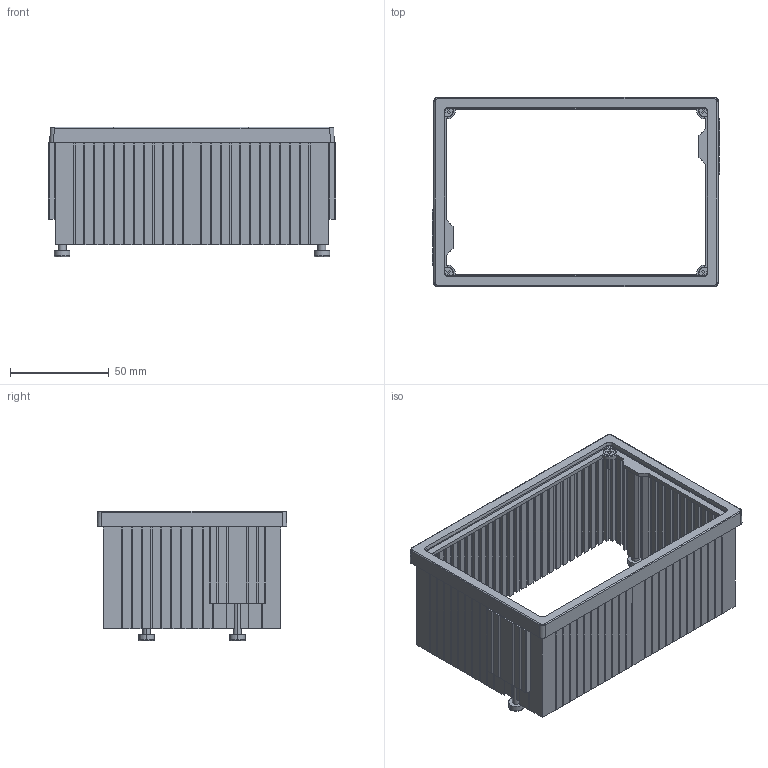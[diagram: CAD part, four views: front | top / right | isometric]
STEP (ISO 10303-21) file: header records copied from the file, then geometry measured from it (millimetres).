
FILE_DESCRIPTION(('Creo Elements/Direct Modeling STEP Export'),'2;1');
FILE_NAME('044232000.stp','2018-11-23T10:36:26',(''),(''),'Creo Elements/Direct Modeling STEP processor for AP214 (Solid Model)','Creo Elements/Direct Modeling 18.1I 13-Aug-2016 (C) Parametric Technology GmbH','');
FILE_SCHEMA(('AUTOMOTIVE_DESIGN { 1 0 10303 214 1 1 1 1 }'));
Length unit declared in the file: millimetre
Products named in the file (7): 0445336_Frontrahmen_144x96; 044200200_Befestigungsprofil; 024009601_Rahmen_144x96; 044232001_Profil_STG_144x96x60_5; 0630732_Senkschraube_M3X10; 0630730_SchraubeM4x16.01; 044232000_STG_144x96x60_5
Assembly tree (11 placements, depth 2):
  044232000_STG_144x96x60_5
    0630730_SchraubeM4x16.01  x2
    044200200_Befestigungsprofil  x2
    0630732_Senkschraube_M3X10  x4
    044232001_Profil_STG_144x96x60_5
    024009601_Rahmen_144x96
    0445336_Frontrahmen_144x96
Bounding box: 145.6 x 96 x 65.75 mm (x, y, z)
Volume: 90638.3 mm3; surface area: 94785.6 mm2
Topology: 11 solids, 11 shells, 869 faces, 2432 edges, 1604 vertices
Faces by surface type: plane 657, cylinder 168, cone 28, bspline 10, torus 4, extrusion 2
Entity records: 25045 total; most frequent: CARTESIAN_POINT 5144, ORIENTED_EDGE 4280, DIRECTION 3842, EDGE_CURVE 2140, VECTOR 1826, LINE 1824, VERTEX_POINT 1416, AXIS2_PLACEMENT_3D 1008
